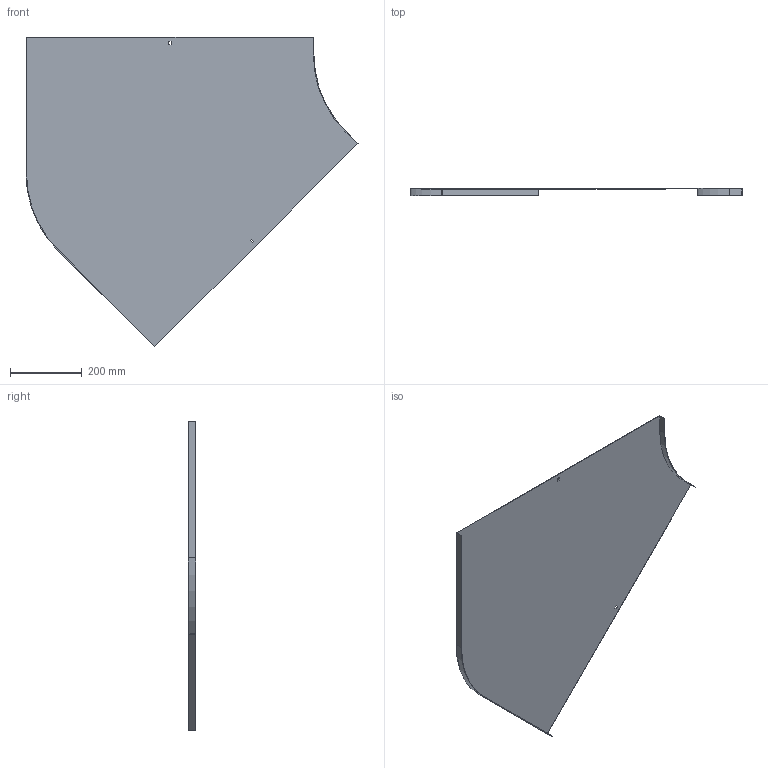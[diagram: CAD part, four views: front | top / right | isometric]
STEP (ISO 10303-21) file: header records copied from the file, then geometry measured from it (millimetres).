
FILE_DESCRIPTION (( 'STEP AP214' ), '1' );
FILE_NAME ('B2_11N3R800.step', '2025-02-21T10:51:22', ( '' ), ( '' ), 'SwSTEP 2.0', 'SolidWorks 2023', '' );
FILE_SCHEMA (( 'AUTOMOTIVE_DESIGN' ));
Length unit declared in the file: millimetre
Products named in the file (1): B2_11N3R800
Bounding box: 925.78 x 20 x 864.23 mm (x, y, z)
Volume: 855722.7 mm3; surface area: 1145577.6 mm2
Topology: 1 solids, 1 shells, 26 faces, 72 edges, 48 vertices
Faces by surface type: plane 22, cylinder 4
Entity records: 855 total; most frequent: CARTESIAN_POINT 147, ORIENTED_EDGE 144, DIRECTION 134, EDGE_CURVE 72, VECTOR 64, LINE 64, VERTEX_POINT 48, AXIS2_PLACEMENT_3D 35
